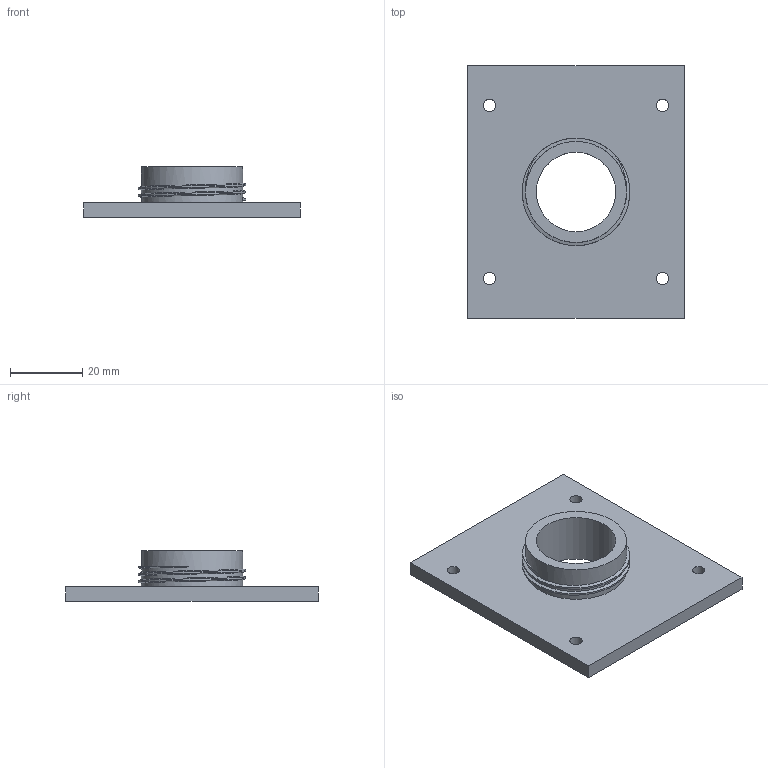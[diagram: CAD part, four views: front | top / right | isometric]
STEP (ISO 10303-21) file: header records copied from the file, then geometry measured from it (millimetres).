
FILE_DESCRIPTION(('Open CASCADE Model'),'2;1');
FILE_NAME('Open CASCADE Shape Model','2026-10-21T16:53:57',('Author'),( 'Open CASCADE'),'Open CASCADE STEP processor 7.9','Open CASCADE 7.9' ,'Unknown');
FILE_SCHEMA(('AUTOMOTIVE_DESIGN { 1 0 10303 214 1 1 1 1 }'));
Length unit declared in the file: millimetre
Products named in the file (1): Open CASCADE STEP translator 7.9 38
Bounding box: 60 x 70 x 14 mm (x, y, z)
Volume: 17618.3 mm3; surface area: 10940.3 mm2
Topology: 1 solids, 1 shells, 20 faces, 49 edges, 32 vertices
Faces by surface type: plane 9, cylinder 8, bspline 3
Full cylindrical faces by diameter (mm): 3.4 x4, 22 x1, 28 x3
Entity records: 2960 total; most frequent: CARTESIAN_POINT 2015, DIRECTION 150, ORIENTED_EDGE 98, PCURVE 98, DEFINITIONAL_REPRESENTATION 98, LINE 86, VECTOR 86, EDGE_CURVE 49
